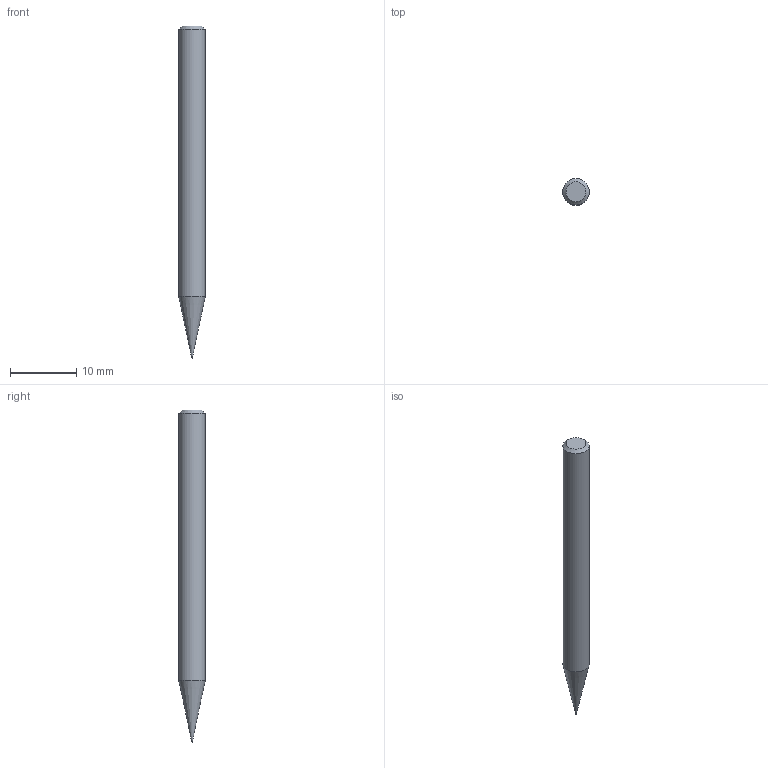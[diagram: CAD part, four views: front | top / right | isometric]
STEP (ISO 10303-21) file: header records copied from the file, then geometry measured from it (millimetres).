
FILE_DESCRIPTION((''),'2;1');
FILE_NAME('C:\Users\nsx150\AppData\Local\Temp\Mastercam 2021\98T1Q6BTT1\TEMP.step','2021-10-21T14:55:11',(''),(''),'STEP Write','Mastercam 2021 ... CNC Software, Inc.','');
FILE_SCHEMA(('AUTOMOTIVE_DESIGN'));
Length unit declared in the file: millimetre
Products named in the file (1): None
Bounding box: 4 x 4 x 50 mm (x, y, z)
Volume: 549.8 mm3; surface area: 580.8 mm2
Topology: 2 solids, 2 shells, 8 faces, 12 edges, 7 vertices
Faces by surface type: plane 3, cylinder 2, cone 2, sphere 1
Full cylindrical faces by diameter (mm): 0.1 x1, 4 x1
Entity records: 190 total; most frequent: DIRECTION 32, CARTESIAN_POINT 22, AXIS2_PLACEMENT_3D 16, ORIENTED_EDGE 12, EDGE_LOOP 12, STYLED_ITEM 11, ADVANCED_FACE 8, VERTEX_POINT 6
